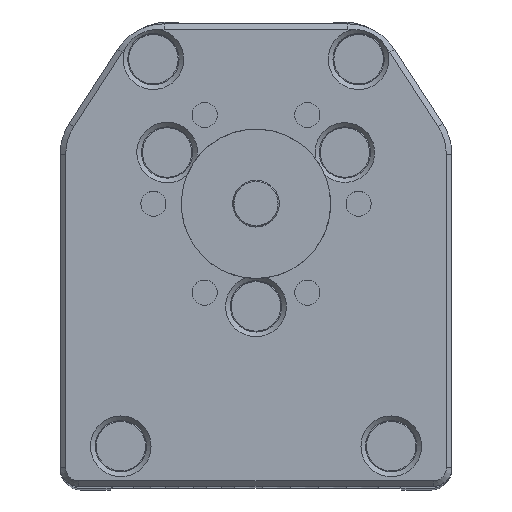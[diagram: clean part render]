
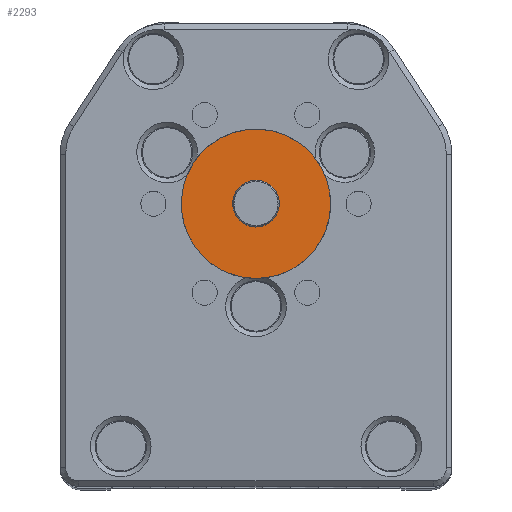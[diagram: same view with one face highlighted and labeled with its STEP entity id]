
A CAD part, top view. The second image highlights one B-rep face of the part: STEP entity #2293.
In plain terms, the highlighted planar face has unit normal (0, 0, 1).
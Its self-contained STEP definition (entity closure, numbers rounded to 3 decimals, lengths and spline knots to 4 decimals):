
#2293=ADVANCED_FACE('',(#7527,#7528),#3395,.T.);
#3395=PLANE('',#21505);
#4117=CIRCLE('',#21503,2.5);
#4118=CIRCLE('',#21504,8.);
#7527=FACE_BOUND('',#8034,.T.);
#7528=FACE_BOUND('',#8035,.T.);
#8034=EDGE_LOOP('',(#10859));
#8035=EDGE_LOOP('',(#10860));
#10859=ORIENTED_EDGE('',*,*,#18243,.F.);
#10860=ORIENTED_EDGE('',*,*,#18244,.T.);
#15999=VERTEX_POINT('',#30922);
#16000=VERTEX_POINT('',#30924);
#18243=EDGE_CURVE('',#15999,#15999,#4117,.T.);
#18244=EDGE_CURVE('',#16000,#16000,#4118,.T.);
#21503=AXIS2_PLACEMENT_3D('',#30921,#24857,#24858);
#21504=AXIS2_PLACEMENT_3D('',#30923,#24859,#24860);
#21505=AXIS2_PLACEMENT_3D('',#30925,#24861,#24862);
#24857=DIRECTION('',(0.,0.,1.));
#24858=DIRECTION('',(1.,0.,0.));
#24859=DIRECTION('',(0.,0.,1.));
#24860=DIRECTION('',(0.,-1.,0.));
#24861=DIRECTION('',(0.,0.,1.));
#24862=DIRECTION('',(1.,0.,0.));
#30921=CARTESIAN_POINT('',(0.,0.,1.5));
#30922=CARTESIAN_POINT('',(2.5,0.,1.5));
#30923=CARTESIAN_POINT('',(0.,0.,1.5));
#30924=CARTESIAN_POINT('',(0.,-8.,1.5));
#30925=CARTESIAN_POINT('',(0.,0.,1.5));
